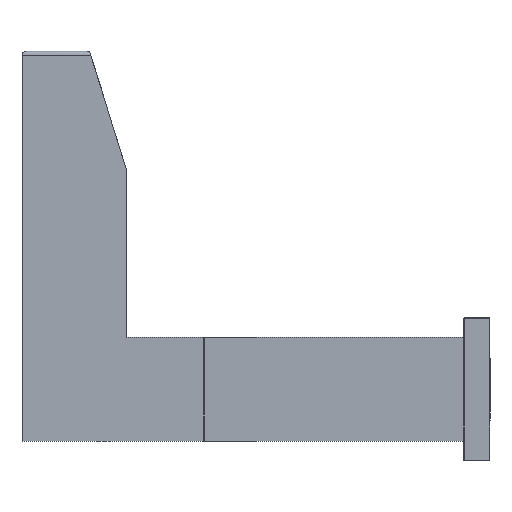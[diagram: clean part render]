
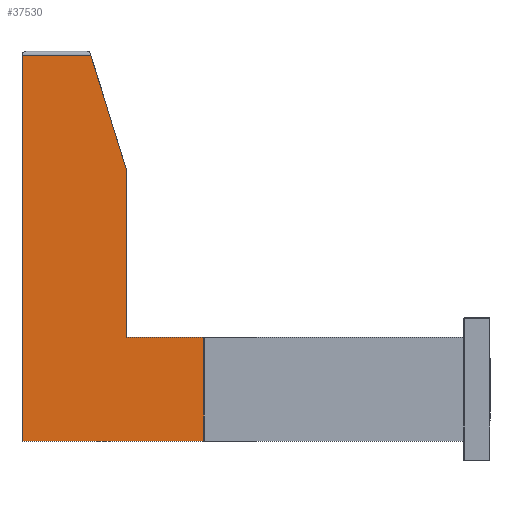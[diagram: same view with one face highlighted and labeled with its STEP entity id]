
A CAD part, left-side view. The second image highlights one B-rep face of the part: STEP entity #37530.
In plain terms, the highlighted planar face has unit normal (-1, 0, 0) as drawn and (0, 0, -1) by its records, which use the part's own axes.
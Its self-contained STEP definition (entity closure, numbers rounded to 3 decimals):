
#292 = DIRECTION ( 'NONE',  ( -1., 0., 0. ) ) ;
#432 = CARTESIAN_POINT ( 'NONE',  ( 20., 70., -7.5 ) ) ;
#444 = EDGE_CURVE ( 'NONE', #33533, #51240, #52563, .T. ) ;
#1589 = ORIENTED_EDGE ( 'NONE', *, *, #56367, .F. ) ;
#1701 = VECTOR ( 'NONE', #38020, 1000. ) ;
#3383 = VECTOR ( 'NONE', #44394, 1000. ) ;
#5409 = EDGE_CURVE ( 'NONE', #38985, #50248, #33816, .T. ) ;
#5601 = ORIENTED_EDGE ( 'NONE', *, *, #24895, .F. ) ;
#7596 = CARTESIAN_POINT ( 'NONE',  ( -128.5, 43.533, -7.5 ) ) ;
#8377 = EDGE_CURVE ( 'NONE', #51240, #39307, #52050, .T. ) ;
#10420 = LINE ( 'NONE', #432, #50618 ) ;
#10582 = CARTESIAN_POINT ( 'NONE',  ( 20., 0., -7.5 ) ) ;
#11412 = EDGE_LOOP ( 'NONE', ( #19384, #35934, #1589, #42729, #14545, #44917, #5601 ) ) ;
#14376 = DIRECTION ( 'NONE',  ( -1., 0., 0. ) ) ;
#14545 = ORIENTED_EDGE ( 'NONE', *, *, #8377, .T. ) ;
#15628 = CARTESIAN_POINT ( 'NONE',  ( -85., 30., -7.5 ) ) ;
#15720 = VECTOR ( 'NONE', #16556, 1000. ) ;
#16426 = CARTESIAN_POINT ( 'NONE',  ( 20., 70., -7.5 ) ) ;
#16556 = DIRECTION ( 'NONE',  ( 0., -1., 0. ) ) ;
#17593 = DIRECTION ( 'NONE',  ( 1., 0., 0. ) ) ;
#19162 = EDGE_CURVE ( 'NONE', #21342, #39307, #33271, .T. ) ;
#19384 = ORIENTED_EDGE ( 'NONE', *, *, #5409, .T. ) ;
#21342 = VERTEX_POINT ( 'NONE', #40918 ) ;
#21524 = CARTESIAN_POINT ( 'NONE',  ( -130., 30., -7.5 ) ) ;
#21658 = EDGE_CURVE ( 'NONE', #50248, #29037, #34253, .T. ) ;
#21758 = VECTOR ( 'NONE', #17593, 1000. ) ;
#24895 = EDGE_CURVE ( 'NONE', #38985, #21342, #59634, .T. ) ;
#25947 = CARTESIAN_POINT ( 'NONE',  ( 20., 70., -7.5 ) ) ;
#26820 = CARTESIAN_POINT ( 'NONE',  ( -20., 0., -7.5 ) ) ;
#29037 = VERTEX_POINT ( 'NONE', #33825 ) ;
#29949 = VECTOR ( 'NONE', #292, 1000. ) ;
#33271 = LINE ( 'NONE', #53778, #3383 ) ;
#33533 = VERTEX_POINT ( 'NONE', #16426 ) ;
#33816 = LINE ( 'NONE', #47677, #1701 ) ;
#33825 = CARTESIAN_POINT ( 'NONE',  ( -128.5, 70., -7.5 ) ) ;
#34253 = LINE ( 'NONE', #52667, #59553 ) ;
#35934 = ORIENTED_EDGE ( 'NONE', *, *, #21658, .T. ) ;
#36790 = DIRECTION ( 'NONE',  ( 0., 0., 1. ) ) ;
#37530 = ADVANCED_FACE ( 'NONE', ( #59786 ), #41597, .F. ) ;
#38020 = DIRECTION ( 'NONE',  ( -0.955, 0.297, 0. ) ) ;
#38310 = AXIS2_PLACEMENT_3D ( 'NONE', #55816, #36790, #55226 ) ;
#38985 = VERTEX_POINT ( 'NONE', #15628 ) ;
#39307 = VERTEX_POINT ( 'NONE', #26820 ) ;
#40918 = CARTESIAN_POINT ( 'NONE',  ( -20., 30., -7.5 ) ) ;
#41597 = PLANE ( 'NONE',  #38310 ) ;
#42729 = ORIENTED_EDGE ( 'NONE', *, *, #444, .T. ) ;
#43585 = DIRECTION ( 'NONE',  ( 0., 1., 0. ) ) ;
#44394 = DIRECTION ( 'NONE',  ( 0., -1., 0. ) ) ;
#44917 = ORIENTED_EDGE ( 'NONE', *, *, #19162, .F. ) ;
#47677 = CARTESIAN_POINT ( 'NONE',  ( -0.612, 3.746, -7.5 ) ) ;
#50248 = VERTEX_POINT ( 'NONE', #7596 ) ;
#50618 = VECTOR ( 'NONE', #14376, 1000. ) ;
#51240 = VERTEX_POINT ( 'NONE', #54750 ) ;
#52050 = LINE ( 'NONE', #10582, #29949 ) ;
#52563 = LINE ( 'NONE', #25947, #15720 ) ;
#52667 = CARTESIAN_POINT ( 'NONE',  ( -128.5, 70., -7.5 ) ) ;
#53778 = CARTESIAN_POINT ( 'NONE',  ( -20., 70., -7.5 ) ) ;
#54750 = CARTESIAN_POINT ( 'NONE',  ( 20., 0., -7.5 ) ) ;
#55226 = DIRECTION ( 'NONE',  ( 1., 0., 0. ) ) ;
#55816 = CARTESIAN_POINT ( 'NONE',  ( 20., 70., -7.5 ) ) ;
#56367 = EDGE_CURVE ( 'NONE', #33533, #29037, #10420, .T. ) ;
#59553 = VECTOR ( 'NONE', #43585, 1000. ) ;
#59634 = LINE ( 'NONE', #21524, #21758 ) ;
#59786 = FACE_OUTER_BOUND ( 'NONE', #11412, .T. ) ;
